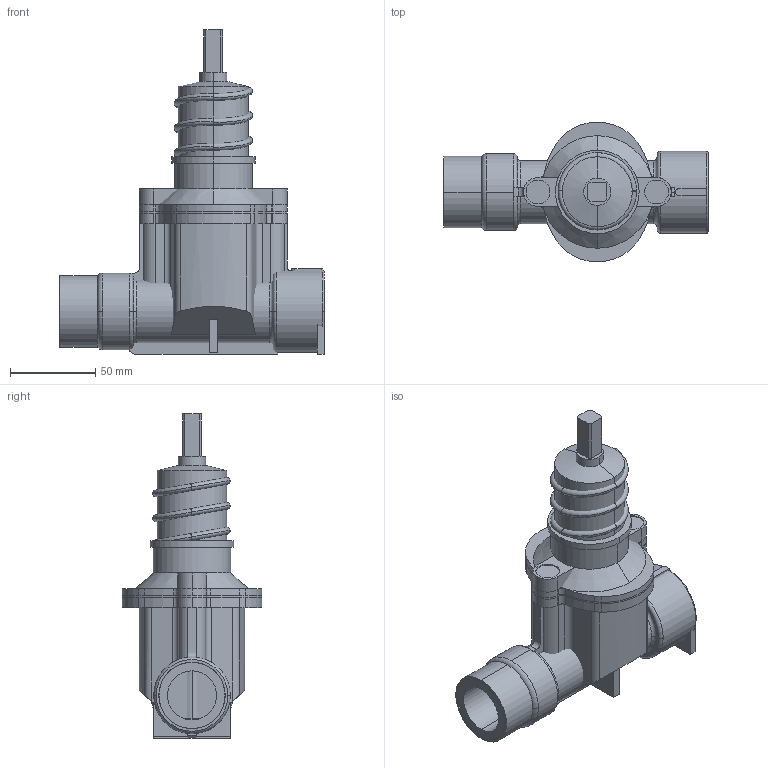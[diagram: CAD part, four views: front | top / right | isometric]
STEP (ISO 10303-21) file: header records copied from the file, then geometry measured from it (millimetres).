
FILE_DESCRIPTION(('STEP AP214'),'1');
FILE_NAME('S:/EK/USER/CAT6/3DHomepage/2520/2520-PN16-DN25.STP','2012-04-25T10:02:11',(' '),(' '),'Spatial InterOp 3D',' ',' ');
FILE_SCHEMA(('automotive_design'));
Length unit declared in the file: millimetre
Products named in the file (36): 3D-Objekt
Bounding box: 155 x 81.99 x 190 mm (x, y, z)
Volume: 551233.1 mm3; surface area: 151593.3 mm2
Topology: 36 solids, 36 shells, 297 faces, 685 edges, 465 vertices
Faces by surface type: plane 136, cylinder 123, torus 34, cone 4
Entity records: 11858 total; most frequent: DIRECTION 1732, CARTESIAN_POINT 1483, ORIENTED_EDGE 1370, AXIS2_PLACEMENT_3D 714, EDGE_CURVE 685, VERTEX_POINT 465, CIRCLE 375, STYLED_ITEM 333
